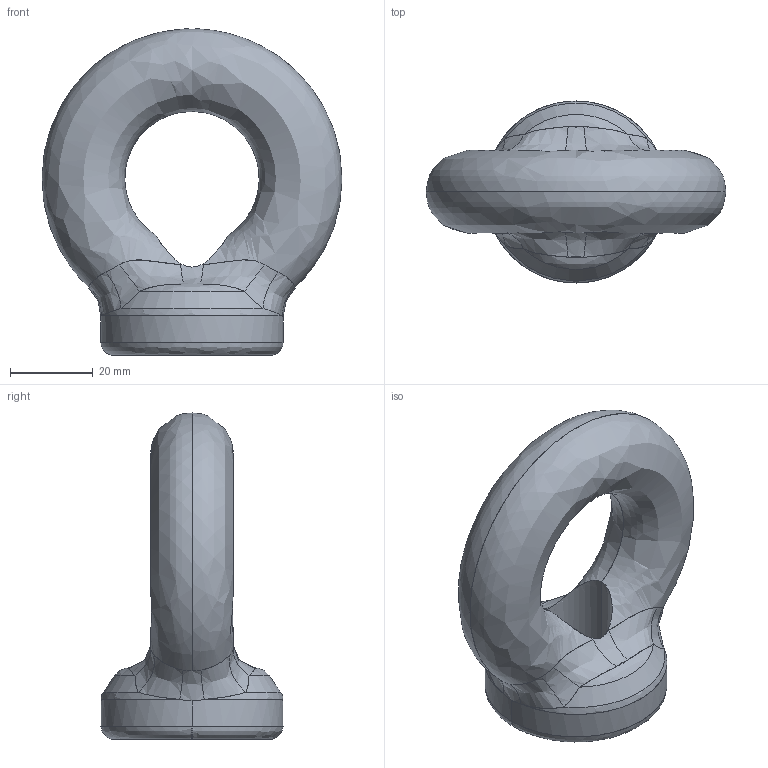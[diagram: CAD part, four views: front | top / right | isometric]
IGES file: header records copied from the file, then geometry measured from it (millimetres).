
Start section: SolidWorks IGES FILE using analytic representation for surfaces
Global section: file name: C:\Documents and Settings\Townley Workstation\Desktop\tooling\Townley products\Eye nuts\ENB20\Model\Finished part drawings\ENMC20.IGS; native system: SolidWorks 2004 by SolidWorks Corporation; preprocessor: Version 5.3; author: Townley Workstation; date: 100212.111726; units: millimetre
Bounding box: 72.5 x 44 x 78.82 mm (x, y, z)
Surface area: 13803.2 mm2 (no closed solid volume)
Topology: 0 solids, 0 shells, 35 faces, 486 edges, 486 vertices
Faces by surface type: bspline 25, revolution 10
